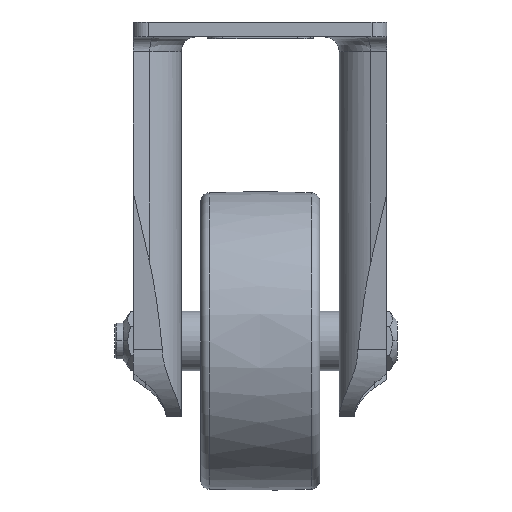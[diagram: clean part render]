
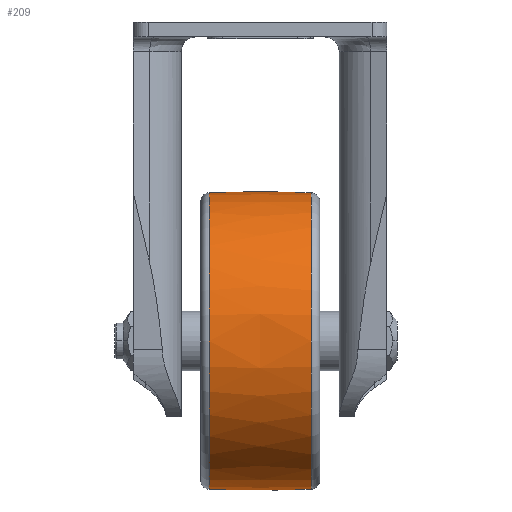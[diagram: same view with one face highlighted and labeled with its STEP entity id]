
A CAD part, left-side view. The second image highlights one B-rep face of the part: STEP entity #209.
In plain terms, the highlighted free-form (B-spline) face has degree [2, 2] with [3, 9] control points.
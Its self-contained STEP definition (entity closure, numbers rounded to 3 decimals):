
#136=CARTESIAN_POINT('',(38.163,64.663,136.681));
#137=CARTESIAN_POINT('',(38.163,47.56,137.266));
#138=CARTESIAN_POINT('',(38.163,30.457,136.681));
#139=CARTESIAN_POINT('',(87.871,64.663,136.681));
#140=CARTESIAN_POINT('',(88.456,47.56,137.266));
#141=CARTESIAN_POINT('',(87.871,30.457,136.681));
#142=CARTESIAN_POINT('',(87.871,64.663,86.974));
#143=CARTESIAN_POINT('',(88.456,47.56,86.974));
#144=CARTESIAN_POINT('',(87.871,30.457,86.974));
#145=CARTESIAN_POINT('',(87.871,64.663,37.266));
#146=CARTESIAN_POINT('',(88.456,47.56,36.681));
#147=CARTESIAN_POINT('',(87.871,30.457,37.266));
#148=CARTESIAN_POINT('',(38.163,64.663,37.266));
#149=CARTESIAN_POINT('',(38.163,47.56,36.681));
#150=CARTESIAN_POINT('',(38.163,30.457,37.266));
#151=CARTESIAN_POINT('',(-11.544,64.663,37.266));
#152=CARTESIAN_POINT('',(-12.129,47.56,36.681));
#153=CARTESIAN_POINT('',(-11.544,30.457,37.266));
#154=CARTESIAN_POINT('',(-11.544,64.663,86.974));
#155=CARTESIAN_POINT('',(-12.129,47.56,86.974));
#156=CARTESIAN_POINT('',(-11.544,30.457,86.974));
#157=CARTESIAN_POINT('',(-11.544,64.663,136.681));
#158=CARTESIAN_POINT('',(-12.129,47.56,137.266));
#159=CARTESIAN_POINT('',(-11.544,30.457,136.681));
#160=CARTESIAN_POINT('',(38.163,64.663,136.681));
#161=CARTESIAN_POINT('',(38.163,47.56,137.266));
#162=CARTESIAN_POINT('',(38.163,30.457,136.681));
#170=(BOUNDED_SURFACE()B_SPLINE_SURFACE(2,2,((#136,#139,#142,#145,#148,#151,#154,#157,#160),(#137,#140,#143,#146,#149,#152,#155,#158,#161),(#138,#141,#144,#147,#150,#153,#156,#159,#162)),.UNSPECIFIED.,.F.,.T.,.U.)B_SPLINE_SURFACE_WITH_KNOTS((3,3),(3,2,2,2,3),(-0.034,0.034),(0.0,1.571,3.142,4.712,6.283),.UNSPECIFIED.)GEOMETRIC_REPRESENTATION_ITEM()RATIONAL_B_SPLINE_SURFACE(((1.0,0.707,1.0,0.707,1.0,0.707,1.0,0.707,1.0),(0.999,0.707,0.999,0.707,0.999,0.707,0.999,0.707,0.999),(1.0,0.707,1.0,0.707,1.0,0.707,1.0,0.707,1.0)))REPRESENTATION_ITEM('')SURFACE());
#171=CARTESIAN_POINT('',(38.163,30.457,37.266));
#172=VERTEX_POINT('',#171);
#173=CARTESIAN_POINT('',(38.163,64.663,37.266));
#174=VERTEX_POINT('',#173);
#175=CARTESIAN_POINT('',(38.163,47.56,536.974));
#176=DIRECTION('',(1.0,0.0,0.0));
#177=DIRECTION('',(0.0,0.0,-1.0));
#178=AXIS2_PLACEMENT_3D('',#175,#176,#177);
#179=CIRCLE('',#178,500.0);
#180=EDGE_CURVE('',#172,#174,#179,.T.);
#181=ORIENTED_EDGE('',*,*,#180,.F.);
#182=CARTESIAN_POINT('',(38.163,30.457,136.681));
#183=VERTEX_POINT('',#182);
#184=CARTESIAN_POINT('',(38.163,30.457,86.974));
#185=DIRECTION('',(0.0,-1.0,0.0));
#186=DIRECTION('',(0.0,0.0,-1.0));
#187=AXIS2_PLACEMENT_3D('',#184,#185,#186);
#188=CIRCLE('',#187,49.707);
#189=EDGE_CURVE('',#183,#172,#188,.T.);
#190=ORIENTED_EDGE('',*,*,#189,.F.);
#191=CARTESIAN_POINT('',(38.163,64.663,136.681));
#192=VERTEX_POINT('',#191);
#193=CARTESIAN_POINT('',(38.163,47.56,-363.026));
#194=DIRECTION('',(-1.0,0.0,0.0));
#195=DIRECTION('',(0.0,0.0,1.0));
#196=AXIS2_PLACEMENT_3D('',#193,#194,#195);
#197=CIRCLE('',#196,500.0);
#198=EDGE_CURVE('',#183,#192,#197,.T.);
#199=ORIENTED_EDGE('',*,*,#198,.T.);
#200=CARTESIAN_POINT('',(38.163,64.663,86.974));
#201=DIRECTION('',(0.0,-1.0,0.0));
#202=DIRECTION('',(0.0,0.0,-1.0));
#203=AXIS2_PLACEMENT_3D('',#200,#201,#202);
#204=CIRCLE('',#203,49.707);
#205=EDGE_CURVE('',#192,#174,#204,.T.);
#206=ORIENTED_EDGE('',*,*,#205,.T.);
#207=EDGE_LOOP('',(#181,#190,#199,#206));
#208=FACE_OUTER_BOUND('',#207,.T.);
#209=ADVANCED_FACE('',(#208),#170,.T.);
